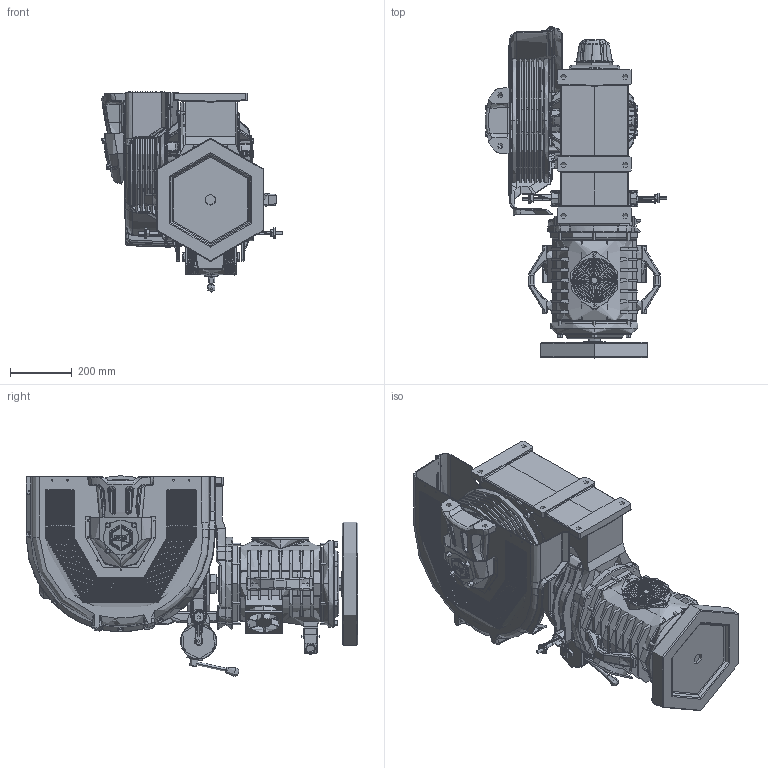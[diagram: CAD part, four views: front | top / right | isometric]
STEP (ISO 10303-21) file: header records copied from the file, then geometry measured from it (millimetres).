
FILE_DESCRIPTION (( 'STEP AP214' ), '1' );
FILE_NAME ('STC90063.STEP', '2026-01-20T09:26:37', ( '' ), ( '' ), 'SwSTEP 2.0', 'SolidWorks 2023', '' );
FILE_SCHEMA (( 'AUTOMOTIVE_DESIGN' ));
Products named in the file (1): STC90063
Bounding box: 586.99 x 1073.96 x 649.18 mm (x, y, z)
Topology: 94 solids, 102 shells, 7896 faces, 19628 edges, 11831 vertices
Faces by surface type: cylinder 2397, plane 2393, bspline 1603, torus 773, cone 575, sphere 155
Full cylindrical faces by diameter (mm): 20 x3
Entity records: 301166 total; most frequent: CARTESIAN_POINT 123790, ORIENTED_EDGE 38922, DIRECTION 34823, EDGE_CURVE 19461, AXIS2_PLACEMENT_3D 13915, VERTEX_POINT 11783, EDGE_LOOP 8666, ADVANCED_FACE 7894
